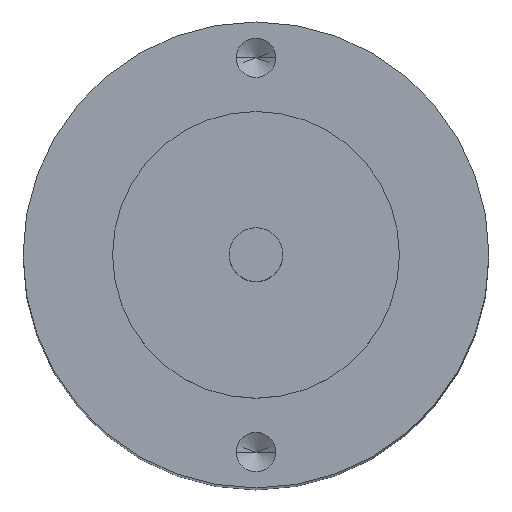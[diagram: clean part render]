
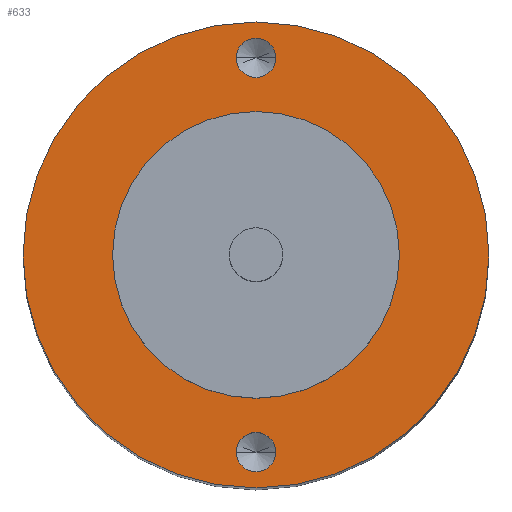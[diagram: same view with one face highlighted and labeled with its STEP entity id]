
A CAD part, top view. The second image highlights one B-rep face of the part: STEP entity #633.
In plain terms, the highlighted planar face has unit normal (0, 0, 1).
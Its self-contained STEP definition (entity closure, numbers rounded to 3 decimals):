
#4 = CIRCLE ( 'NONE', #180, 0.55 ) ;
#15 = ORIENTED_EDGE ( 'NONE', *, *, #19, .F. ) ;
#17 = DIRECTION ( 'NONE',  ( 0., 0., 1. ) ) ;
#19 = EDGE_CURVE ( 'NONE', #210, #543, #556, .T. ) ;
#25 = FACE_BOUND ( 'NONE', #302, .T. ) ;
#43 = DIRECTION ( 'NONE',  ( 0., 0., 1. ) ) ;
#87 = EDGE_CURVE ( 'NONE', #440, #262, #99, .T. ) ;
#88 = VERTEX_POINT ( 'NONE', #357 ) ;
#99 = CIRCLE ( 'NONE', #412, 0.55 ) ;
#109 = CARTESIAN_POINT ( 'NONE',  ( -0.55, -5.5, 0. ) ) ;
#110 = CIRCLE ( 'NONE', #536, 4. ) ;
#113 = CARTESIAN_POINT ( 'NONE',  ( 0., 5.5, 0. ) ) ;
#115 = EDGE_CURVE ( 'NONE', #286, #637, #224, .T. ) ;
#116 = DIRECTION ( 'NONE',  ( 1., 0., 0. ) ) ;
#123 = CARTESIAN_POINT ( 'NONE',  ( 0., -5.5, 0. ) ) ;
#135 = ORIENTED_EDGE ( 'NONE', *, *, #365, .T. ) ;
#140 = AXIS2_PLACEMENT_3D ( 'NONE', #535, #17, #222 ) ;
#146 = DIRECTION ( 'NONE',  ( 0., 0., 1. ) ) ;
#152 = EDGE_CURVE ( 'NONE', #262, #440, #4, .T. ) ;
#153 = DIRECTION ( 'NONE',  ( 1., 0., 0. ) ) ;
#160 = CIRCLE ( 'NONE', #526, 0.55 ) ;
#180 = AXIS2_PLACEMENT_3D ( 'NONE', #113, #363, #359 ) ;
#188 = DIRECTION ( 'NONE',  ( 1., 0., 0. ) ) ;
#192 = CARTESIAN_POINT ( 'NONE',  ( 6.5, 0., 0. ) ) ;
#195 = CARTESIAN_POINT ( 'NONE',  ( 0.55, 5.5, 0. ) ) ;
#205 = CARTESIAN_POINT ( 'NONE',  ( -0.55, 5.5, 0. ) ) ;
#210 = VERTEX_POINT ( 'NONE', #468 ) ;
#212 = CIRCLE ( 'NONE', #490, 6.5 ) ;
#222 = DIRECTION ( 'NONE',  ( 1., 0., 0. ) ) ;
#224 = CIRCLE ( 'NONE', #590, 6.5 ) ;
#251 = ORIENTED_EDGE ( 'NONE', *, *, #452, .F. ) ;
#262 = VERTEX_POINT ( 'NONE', #195 ) ;
#275 = CIRCLE ( 'NONE', #523, 0.55 ) ;
#278 = FACE_BOUND ( 'NONE', #515, .T. ) ;
#279 = EDGE_CURVE ( 'NONE', #88, #485, #275, .T. ) ;
#286 = VERTEX_POINT ( 'NONE', #192 ) ;
#295 = AXIS2_PLACEMENT_3D ( 'NONE', #353, #561, #502 ) ;
#302 = EDGE_LOOP ( 'NONE', ( #626, #388 ) ) ;
#331 = FACE_OUTER_BOUND ( 'NONE', #337, .T. ) ;
#333 = EDGE_LOOP ( 'NONE', ( #15, #251 ) ) ;
#337 = EDGE_LOOP ( 'NONE', ( #479, #135 ) ) ;
#353 = CARTESIAN_POINT ( 'NONE',  ( 0., 0., 0. ) ) ;
#355 = DIRECTION ( 'NONE',  ( 0., 0., 1. ) ) ;
#357 = CARTESIAN_POINT ( 'NONE',  ( 0.55, -5.5, 0. ) ) ;
#359 = DIRECTION ( 'NONE',  ( 1., 0., 0. ) ) ;
#363 = DIRECTION ( 'NONE',  ( 0., 0., 1. ) ) ;
#365 = EDGE_CURVE ( 'NONE', #637, #286, #212, .T. ) ;
#384 = DIRECTION ( 'NONE',  ( 1., 0., 0. ) ) ;
#388 = ORIENTED_EDGE ( 'NONE', *, *, #615, .F. ) ;
#412 = AXIS2_PLACEMENT_3D ( 'NONE', #613, #146, #153 ) ;
#421 = DIRECTION ( 'NONE',  ( 0., 0., 1. ) ) ;
#429 = DIRECTION ( 'NONE',  ( 1., 0., 0. ) ) ;
#440 = VERTEX_POINT ( 'NONE', #205 ) ;
#452 = EDGE_CURVE ( 'NONE', #543, #210, #110, .T. ) ;
#468 = CARTESIAN_POINT ( 'NONE',  ( -4., 0., 0. ) ) ;
#479 = ORIENTED_EDGE ( 'NONE', *, *, #115, .T. ) ;
#485 = VERTEX_POINT ( 'NONE', #109 ) ;
#490 = AXIS2_PLACEMENT_3D ( 'NONE', #555, #43, #188 ) ;
#502 = DIRECTION ( 'NONE',  ( 1., 0., 0. ) ) ;
#512 = CARTESIAN_POINT ( 'NONE',  ( 0., 0., 0. ) ) ;
#515 = EDGE_LOOP ( 'NONE', ( #580, #609 ) ) ;
#523 = AXIS2_PLACEMENT_3D ( 'NONE', #601, #606, #384 ) ;
#526 = AXIS2_PLACEMENT_3D ( 'NONE', #123, #421, #429 ) ;
#535 = CARTESIAN_POINT ( 'NONE',  ( 0., 0., 0. ) ) ;
#536 = AXIS2_PLACEMENT_3D ( 'NONE', #512, #355, #116 ) ;
#543 = VERTEX_POINT ( 'NONE', #629 ) ;
#555 = CARTESIAN_POINT ( 'NONE',  ( 0., 0., 0. ) ) ;
#556 = CIRCLE ( 'NONE', #295, 4. ) ;
#561 = DIRECTION ( 'NONE',  ( 0., 0., 1. ) ) ;
#571 = CARTESIAN_POINT ( 'NONE',  ( 0., 0., 0. ) ) ;
#580 = ORIENTED_EDGE ( 'NONE', *, *, #152, .F. ) ;
#581 = CARTESIAN_POINT ( 'NONE',  ( -6.5, 0., 0. ) ) ;
#586 = FACE_BOUND ( 'NONE', #333, .T. ) ;
#590 = AXIS2_PLACEMENT_3D ( 'NONE', #571, #618, #638 ) ;
#601 = CARTESIAN_POINT ( 'NONE',  ( 0., -5.5, 0. ) ) ;
#606 = DIRECTION ( 'NONE',  ( 0., 0., 1. ) ) ;
#609 = ORIENTED_EDGE ( 'NONE', *, *, #87, .F. ) ;
#613 = CARTESIAN_POINT ( 'NONE',  ( 0., 5.5, 0. ) ) ;
#615 = EDGE_CURVE ( 'NONE', #485, #88, #160, .T. ) ;
#618 = DIRECTION ( 'NONE',  ( 0., 0., 1. ) ) ;
#626 = ORIENTED_EDGE ( 'NONE', *, *, #279, .F. ) ;
#627 = PLANE ( 'NONE',  #140 ) ;
#629 = CARTESIAN_POINT ( 'NONE',  ( 4., 0., 0. ) ) ;
#633 = ADVANCED_FACE ( 'NONE', ( #278, #25, #586, #331 ), #627, .T. ) ;
#637 = VERTEX_POINT ( 'NONE', #581 ) ;
#638 = DIRECTION ( 'NONE',  ( 1., 0., 0. ) ) ;
